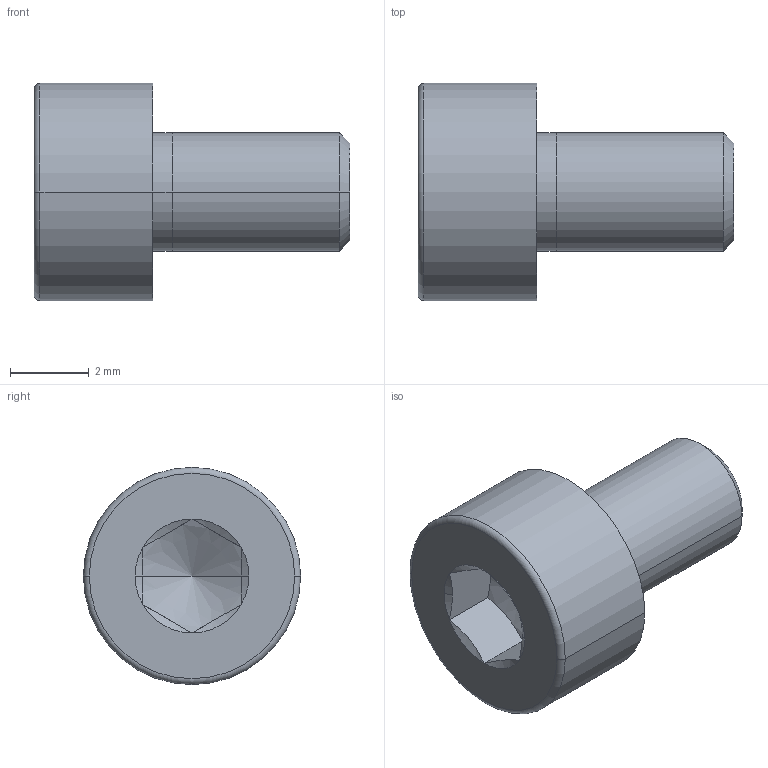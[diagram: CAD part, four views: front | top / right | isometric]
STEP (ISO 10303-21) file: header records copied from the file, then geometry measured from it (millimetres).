
FILE_DESCRIPTION(/* description */ ('VariCAD 2010-3.03 AP-214'),/* implementation_level */ '2;1');
FILE_NAME(/* name */ '0353-97-71',/* time_stamp */ '2011-01-17T19:02:35-07:00',/* author */ (''),/* organization */ (''),/* preprocessor_version */ 'ST-DEVELOPER v12',/* originating_system */ 'VariCAD 2010-3.03; kernel version (20100102)',/* authorisation */ '');
FILE_SCHEMA (('AUTOMOTIVE_DESIGN'));
Length unit declared in the file: millimetre
Products named in the file (1): Part
Bounding box: 8 x 5.5 x 5.5 mm (x, y, z)
Volume: 97.1 mm3; surface area: 230.7 mm2
Topology: 2 solids, 2 shells, 35 faces, 80 edges, 49 vertices
Faces by surface type: cone 12, plane 11, cylinder 10, torus 2
Entity records: 1310 total; most frequent: CARTESIAN_POINT 245, DIRECTION 170, ORIENTED_EDGE 156, EDGE_CURVE 78, AXIS2_PLACEMENT_3D 70, VERTEX_POINT 49, EDGE_LOOP 39, PRESENTATION_STYLE_ASSIGNMENT 37
